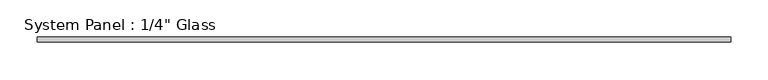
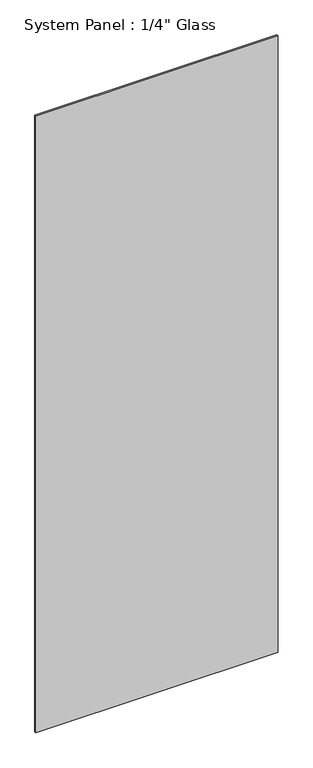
"""IFC4 building model written with IfcOpenShell, lengths in millimetres: plate geometry."""

from ifc_helpers import new_model, si_unit, origin, origin_with_axes, place, context, project, spatial, polyline, outline, extrude, source, transform, mapped, element, save


def plate_028de0fc(model_context):
    return source(origin(), model_context, "Body", "SweptSolid", [
        extrude(outline(polyline([(462.5512242, -3.175), (-462.5512242, -3.175), (-462.5512242, 3.175), (462.5512242, 3.175), (462.5512242, -3.175)])), origin_with_axes(), (0.0, 0.0, 1.0), 2489.2),
    ])


if __name__ == "__main__":
    model = new_model("IFC4")
    model_context = context("Model", 3, world=origin())
    ifc_project = project(units=[si_unit("LENGTHUNIT", "METRE", prefix="MILLI")], contexts=[model_context])
    site = spatial("IfcSite", under=ifc_project)
    building = spatial("IfcBuilding", under=site)
    placement = place(None, origin())
    plate_shape = plate_028de0fc(model_context)
    element("IfcPlate", 1, ObjectType="System Panel : 1/4\" Glass", at=placement, inside=building, context=model_context, shape_type="MappedRepresentation", body=[
        mapped(plate_shape, transform((0.0, 0.0, 0.0), x_axis=(1.0, 0.0, 0.0), y_axis=(0.0, 1.0, 0.0), z_axis=(0.0, 0.0, 1.0))),
    ])
    save(model, "model.ifc")
